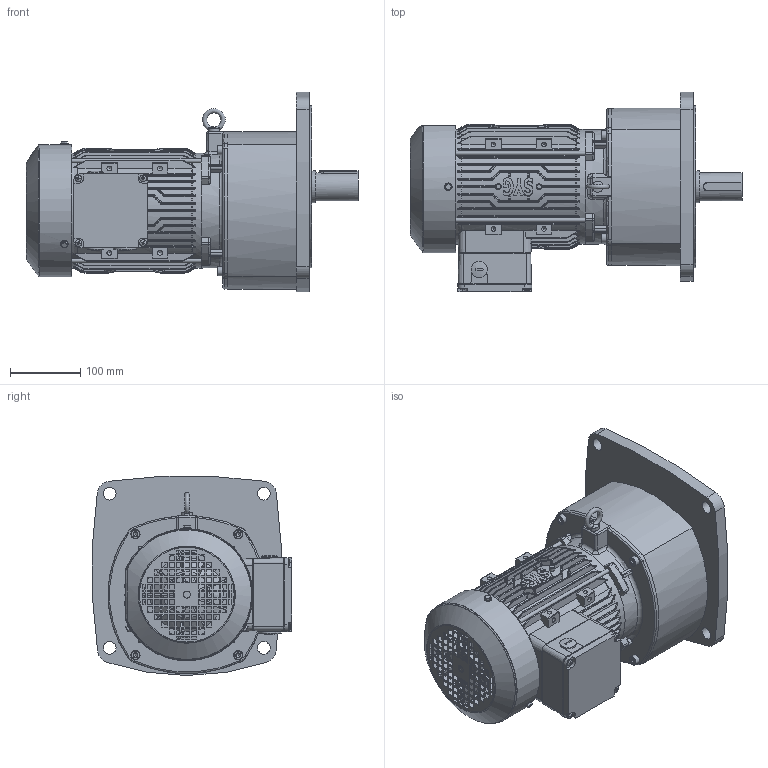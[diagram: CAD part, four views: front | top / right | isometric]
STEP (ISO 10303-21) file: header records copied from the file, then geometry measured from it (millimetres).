
FILE_DESCRIPTION(/* description */ (''),/* implementation_level */ '2;1');
FILE_NAME(/* name */ 'D:\▼ 3D：M2\00. 내부 직접 검토품\M2-153\외형도용 - ASS''Y\SK2\M21530A - OUTLINE (SK2，VT，1.5kW).stp',/* time_stamp */ '2026-05-18T11:58:55+09:00',/* author */ ('이정훈'),/* organization */ (''),/* preprocessor_version */ 'ST-DEVELOPER v18.1',/* originating_system */ 'Autodesk Inventor 2022',/* authorisation */ '');
FILE_SCHEMA (('AUTOMOTIVE_DESIGN { 1 0 10303 214 3 1 1 }'));
Products named in the file (1): M21530A - OUTLINE (SK2，VT，1.5kW
)
Bounding box: 472 x 283.21 x 283.15 mm (x, y, z)
Volume: 11621976.6 mm3; surface area: 713513.8 mm2
Topology: 5 solids, 5 shells, 3826 faces, 10180 edges, 6399 vertices
Faces by surface type: plane 1711, cylinder 1076, bspline 725, cone 246, torus 50, sphere 18
Full cylindrical faces by diameter (mm): 2 x2, 4.8 x3, 5 x11, 6 x8, 6.4 x4, 6.8 x4, 9.5 x4, 10 x1, 10.5 x3, 12 x4, 13 x4, 18 x4, 23 x2, 25 x1, 26 x1, 33 x1, 37 x1, 38 x1, 40 x1, 43 x1, 45 x1, 52 x1, 62 x1, 78 x1, 101 x1, 163 x2, 216 x1, 230 x1
Entity records: 152396 total; most frequent: CARTESIAN_POINT 60769, ORIENTED_EDGE 20270, DIRECTION 17941, EDGE_CURVE 10135, AXIS2_PLACEMENT_3D 6429, VERTEX_POINT 6411, LINE 5083, VECTOR 5083
